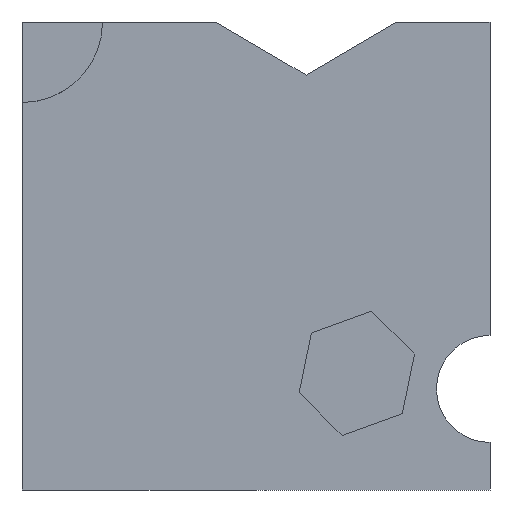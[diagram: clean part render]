
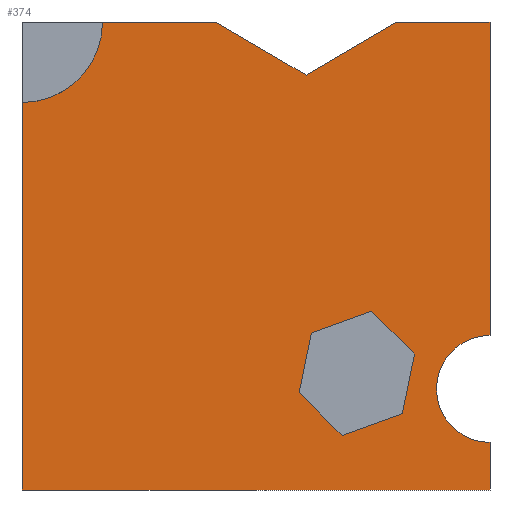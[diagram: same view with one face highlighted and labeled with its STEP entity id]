
A CAD part, left-side view. The second image highlights one B-rep face of the part: STEP entity #374.
In plain terms, the highlighted planar face has unit normal (-1, 0, 0).
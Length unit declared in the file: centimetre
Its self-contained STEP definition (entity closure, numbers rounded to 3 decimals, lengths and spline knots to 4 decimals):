
#14 = EDGE_CURVE ( 'NONE', #178, #123, #409, .T. ) ;
#31 = EDGE_CURVE ( 'NONE', #431, #733, #332, .T. ) ;
#47 = VECTOR ( 'NONE', #281, 100. ) ;
#57 = EDGE_CURVE ( 'NONE', #60, #887, #638, .T. ) ;
#58 = ORIENTED_EDGE ( 'NONE', *, *, #452, .F. ) ;
#59 = DIRECTION ( 'NONE',  ( 0., 0., -1. ) ) ;
#60 = VERTEX_POINT ( 'NONE', #550 ) ;
#62 = VECTOR ( 'NONE', #239, 100. ) ;
#73 = LINE ( 'NONE', #515, #47 ) ;
#97 = CARTESIAN_POINT ( 'NONE',  ( 0., 0., 216.0008 ) ) ;
#98 = CARTESIAN_POINT ( 'NONE',  ( 0., 1000., 1000. ) ) ;
#102 = CARTESIAN_POINT ( 'NONE',  ( 0., 316.0883, 116.5532 ) ) ;
#104 = ORIENTED_EDGE ( 'NONE', *, *, #706, .F. ) ;
#118 = CARTESIAN_POINT ( 'NONE',  ( 0., 1000., 1000. ) ) ;
#123 = VERTEX_POINT ( 'NONE', #655 ) ;
#125 = CARTESIAN_POINT ( 'NONE',  ( 0., 407.7402, 208.2051 ) ) ;
#127 = DIRECTION ( 'NONE',  ( 0., 0., 1. ) ) ;
#136 = EDGE_CURVE ( 'NONE', #424, #431, #73, .T. ) ;
#148 = LINE ( 'NONE', #891, #155 ) ;
#154 = LINE ( 'NONE', #98, #321 ) ;
#155 = VECTOR ( 'NONE', #437, 100. ) ;
#168 = LINE ( 'NONE', #454, #679 ) ;
#175 = EDGE_CURVE ( 'NONE', #573, #60, #516, .T. ) ;
#178 = VERTEX_POINT ( 'NONE', #721 ) ;
#185 = VECTOR ( 'NONE', #775, 100. ) ;
#197 = EDGE_CURVE ( 'NONE', #764, #930, #148, .T. ) ;
#198 = CIRCLE ( 'NONE', #631, 172.0478 ) ;
#201 = CARTESIAN_POINT ( 'NONE',  ( 0., 393.024, 886.6832 ) ) ;
#225 = CIRCLE ( 'NONE', #770, 114.3515 ) ;
#227 = DIRECTION ( 'NONE',  ( 0., 0.707, 0.707 ) ) ;
#231 = DIRECTION ( 'NONE',  ( -1., 0., 0. ) ) ;
#233 = DIRECTION ( 'NONE',  ( 0., -1., 0. ) ) ;
#239 = DIRECTION ( 'NONE',  ( 0., 0., -1. ) ) ;
#245 = VECTOR ( 'NONE', #949, 100. ) ;
#247 = DIRECTION ( 'NONE',  ( 0., 0., 1. ) ) ;
#252 = CARTESIAN_POINT ( 'NONE',  ( 0., 1000., 827.9522 ) ) ;
#268 = CARTESIAN_POINT ( 'NONE',  ( 0., 1000., 0. ) ) ;
#272 = ORIENTED_EDGE ( 'NONE', *, *, #816, .F. ) ;
#274 = VECTOR ( 'NONE', #807, 100. ) ;
#281 = DIRECTION ( 'NONE',  ( 0., 0.863, -0.506 ) ) ;
#286 = FACE_BOUND ( 'NONE', #756, .T. ) ;
#289 = ORIENTED_EDGE ( 'NONE', *, *, #501, .F. ) ;
#292 = CARTESIAN_POINT ( 'NONE',  ( 0., 1000., 1000. ) ) ;
#301 = CARTESIAN_POINT ( 'NONE',  ( 0., 393.024, 886.6832 ) ) ;
#313 = VERTEX_POINT ( 'NONE', #798 ) ;
#321 = VECTOR ( 'NONE', #233, 100. ) ;
#332 = LINE ( 'NONE', #201, #773 ) ;
#343 = DIRECTION ( 'NONE',  ( 0., 0.863, 0.506 ) ) ;
#345 = DIRECTION ( 'NONE',  ( -1., 0., 0. ) ) ;
#354 = EDGE_CURVE ( 'NONE', #855, #435, #591, .T. ) ;
#361 = ORIENTED_EDGE ( 'NONE', *, *, #197, .F. ) ;
#363 = DIRECTION ( 'NONE',  ( 1., 0., 0. ) ) ;
#370 = VERTEX_POINT ( 'NONE', #670 ) ;
#374 = ADVANCED_FACE ( 'NONE', ( #286, #667 ), #878, .F. ) ;
#409 = LINE ( 'NONE', #125, #419 ) ;
#410 = EDGE_CURVE ( 'NONE', #435, #178, #660, .T. ) ;
#412 = CARTESIAN_POINT ( 'NONE',  ( 0., 1000., 1000. ) ) ;
#419 = VECTOR ( 'NONE', #783, 100. ) ;
#424 = VERTEX_POINT ( 'NONE', #448 ) ;
#431 = VERTEX_POINT ( 'NONE', #301 ) ;
#435 = VERTEX_POINT ( 'NONE', #896 ) ;
#437 = DIRECTION ( 'NONE',  ( 0., -0.2, 0.98 ) ) ;
#448 = CARTESIAN_POINT ( 'NONE',  ( 0., 199.7336, 1000. ) ) ;
#449 = CARTESIAN_POINT ( 'NONE',  ( 0., 161.4312, 290.558 ) ) ;
#452 = EDGE_CURVE ( 'NONE', #370, #948, #225, .T. ) ;
#454 = CARTESIAN_POINT ( 'NONE',  ( 0., 161.4312, 290.558 ) ) ;
#461 = ORIENTED_EDGE ( 'NONE', *, *, #939, .F. ) ;
#469 = VERTEX_POINT ( 'NONE', #687 ) ;
#471 = ORIENTED_EDGE ( 'NONE', *, *, #611, .F. ) ;
#500 = LINE ( 'NONE', #412, #245 ) ;
#501 = EDGE_CURVE ( 'NONE', #313, #370, #691, .T. ) ;
#506 = EDGE_CURVE ( 'NONE', #123, #764, #748, .T. ) ;
#515 = CARTESIAN_POINT ( 'NONE',  ( 0., 199.7336, 1000. ) ) ;
#516 = LINE ( 'NONE', #809, #972 ) ;
#527 = DIRECTION ( 'NONE',  ( 0., 0., -1. ) ) ;
#539 = AXIS2_PLACEMENT_3D ( 'NONE', #292, #363, #527 ) ;
#550 = CARTESIAN_POINT ( 'NONE',  ( 0., 1000., 0. ) ) ;
#564 = CARTESIAN_POINT ( 'NONE',  ( 0., 586.3144, 1000. ) ) ;
#573 = VERTEX_POINT ( 'NONE', #252 ) ;
#575 = LINE ( 'NONE', #873, #649 ) ;
#584 = CARTESIAN_POINT ( 'NONE',  ( 0., 187.3486, 163.3148 ) ) ;
#589 = EDGE_LOOP ( 'NONE', ( #831, #784, #461, #104, #781, #738, #272, #58, #289, #471 ) ) ;
#591 = LINE ( 'NONE', #890, #274 ) ;
#611 = EDGE_CURVE ( 'NONE', #424, #313, #500, .T. ) ;
#613 = DIRECTION ( 'NONE',  ( 0., -0.94, 0.341 ) ) ;
#631 = AXIS2_PLACEMENT_3D ( 'NONE', #118, #345, #127 ) ;
#638 = LINE ( 'NONE', #268, #185 ) ;
#649 = VECTOR ( 'NONE', #59, 100. ) ;
#655 = CARTESIAN_POINT ( 'NONE',  ( 0., 316.0883, 116.5532 ) ) ;
#660 = LINE ( 'NONE', #962, #950 ) ;
#662 = DIRECTION ( 'NONE',  ( 0., 0., -1. ) ) ;
#667 = FACE_OUTER_BOUND ( 'NONE', #589, .T. ) ;
#670 = CARTESIAN_POINT ( 'NONE',  ( 0., 0., 330.3523 ) ) ;
#679 = VECTOR ( 'NONE', #227, 100. ) ;
#681 = CARTESIAN_POINT ( 'NONE',  ( 0., 0., 101.6493 ) ) ;
#687 = CARTESIAN_POINT ( 'NONE',  ( 0., 827.9522, 1000. ) ) ;
#691 = LINE ( 'NONE', #919, #62 ) ;
#706 = EDGE_CURVE ( 'NONE', #573, #469, #198, .T. ) ;
#721 = CARTESIAN_POINT ( 'NONE',  ( 0., 407.7402, 208.2051 ) ) ;
#733 = VERTEX_POINT ( 'NONE', #564 ) ;
#738 = ORIENTED_EDGE ( 'NONE', *, *, #57, .T. ) ;
#748 = LINE ( 'NONE', #102, #790 ) ;
#756 = EDGE_LOOP ( 'NONE', ( #893, #761, #830, #361, #959, #769 ) ) ;
#761 = ORIENTED_EDGE ( 'NONE', *, *, #354, .F. ) ;
#764 = VERTEX_POINT ( 'NONE', #584 ) ;
#769 = ORIENTED_EDGE ( 'NONE', *, *, #14, .F. ) ;
#770 = AXIS2_PLACEMENT_3D ( 'NONE', #97, #231, #247 ) ;
#773 = VECTOR ( 'NONE', #343, 100. ) ;
#775 = DIRECTION ( 'NONE',  ( 0., -1., 0. ) ) ;
#781 = ORIENTED_EDGE ( 'NONE', *, *, #175, .T. ) ;
#783 = DIRECTION ( 'NONE',  ( 0., -0.707, -0.707 ) ) ;
#784 = ORIENTED_EDGE ( 'NONE', *, *, #31, .T. ) ;
#790 = VECTOR ( 'NONE', #613, 100. ) ;
#798 = CARTESIAN_POINT ( 'NONE',  ( 0., 0., 1000. ) ) ;
#807 = DIRECTION ( 'NONE',  ( 0., 0.94, -0.341 ) ) ;
#809 = CARTESIAN_POINT ( 'NONE',  ( 0., 1000., 1000. ) ) ;
#816 = EDGE_CURVE ( 'NONE', #948, #887, #575, .T. ) ;
#830 = ORIENTED_EDGE ( 'NONE', *, *, #967, .F. ) ;
#831 = ORIENTED_EDGE ( 'NONE', *, *, #136, .T. ) ;
#855 = VERTEX_POINT ( 'NONE', #928 ) ;
#873 = CARTESIAN_POINT ( 'NONE',  ( 0., 0., 1000. ) ) ;
#878 = PLANE ( 'NONE',  #539 ) ;
#887 = VERTEX_POINT ( 'NONE', #963 ) ;
#890 = CARTESIAN_POINT ( 'NONE',  ( 0., 253.0831, 382.2098 ) ) ;
#891 = CARTESIAN_POINT ( 'NONE',  ( 0., 187.3486, 163.3148 ) ) ;
#893 = ORIENTED_EDGE ( 'NONE', *, *, #410, .F. ) ;
#896 = CARTESIAN_POINT ( 'NONE',  ( 0., 381.8228, 335.4482 ) ) ;
#919 = CARTESIAN_POINT ( 'NONE',  ( 0., 0., 1000. ) ) ;
#928 = CARTESIAN_POINT ( 'NONE',  ( 0., 253.0831, 382.2098 ) ) ;
#930 = VERTEX_POINT ( 'NONE', #449 ) ;
#939 = EDGE_CURVE ( 'NONE', #469, #733, #154, .T. ) ;
#948 = VERTEX_POINT ( 'NONE', #681 ) ;
#949 = DIRECTION ( 'NONE',  ( 0., -1., 0. ) ) ;
#950 = VECTOR ( 'NONE', #966, 100. ) ;
#959 = ORIENTED_EDGE ( 'NONE', *, *, #506, .F. ) ;
#962 = CARTESIAN_POINT ( 'NONE',  ( 0., 381.8228, 335.4482 ) ) ;
#963 = CARTESIAN_POINT ( 'NONE',  ( 0., 0., 0. ) ) ;
#966 = DIRECTION ( 'NONE',  ( 0., 0.2, -0.98 ) ) ;
#967 = EDGE_CURVE ( 'NONE', #930, #855, #168, .T. ) ;
#972 = VECTOR ( 'NONE', #662, 100. ) ;
